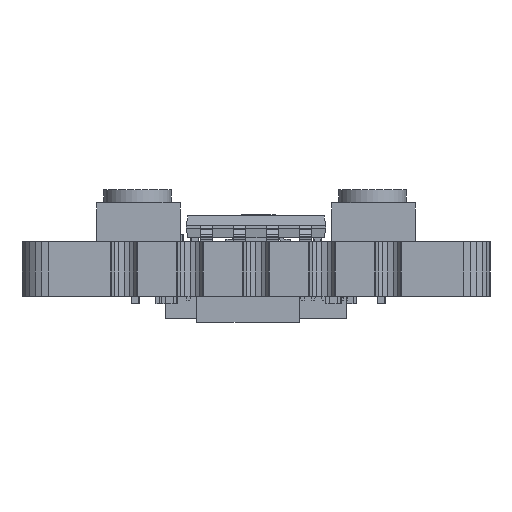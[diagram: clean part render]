
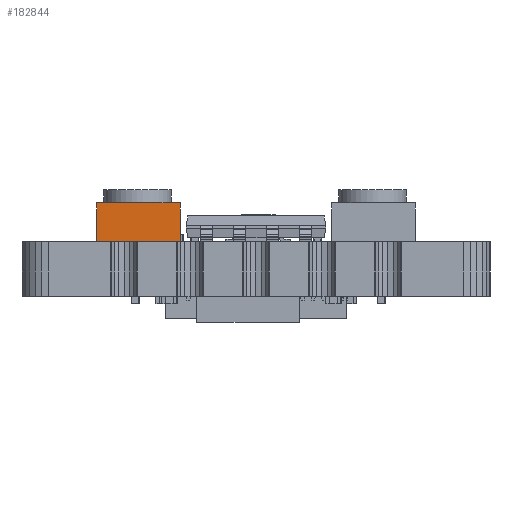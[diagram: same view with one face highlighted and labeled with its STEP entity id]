
A CAD part, front view. The second image highlights one B-rep face of the part: STEP entity #182844.
In plain terms, the highlighted planar face has unit normal (0, -1, 0).
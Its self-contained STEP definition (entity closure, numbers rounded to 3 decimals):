
#182844 = ADVANCED_FACE('',(#182845),#182859,.F.);
#182845 = FACE_BOUND('',#182846,.F.);
#182846 = EDGE_LOOP('',(#182847,#182882,#182910,#182938));
#182847 = ORIENTED_EDGE('',*,*,#182848,.T.);
#182848 = EDGE_CURVE('',#182849,#182851,#182853,.T.);
#182849 = VERTEX_POINT('',#182850);
#182850 = CARTESIAN_POINT('',(-1.6,-2.159,0.));
#182851 = VERTEX_POINT('',#182852);
#182852 = CARTESIAN_POINT('',(-1.6,-2.159,1.5));
#182853 = SURFACE_CURVE('',#182854,(#182858,#182870),.PCURVE_S1.);
#182854 = LINE('',#182855,#182856);
#182855 = CARTESIAN_POINT('',(-1.6,-2.159,0.));
#182856 = VECTOR('',#182857,1.);
#182857 = DIRECTION('',(0.,0.,1.));
#182858 = PCURVE('',#182859,#182864);
#182859 = PLANE('',#182860);
#182860 = AXIS2_PLACEMENT_3D('',#182861,#182862,#182863);
#182861 = CARTESIAN_POINT('',(-1.6,-2.159,0.));
#182862 = DIRECTION('',(0.,1.,0.));
#182863 = DIRECTION('',(1.,0.,0.));
#182864 = DEFINITIONAL_REPRESENTATION('',(#182865),#182869);
#182865 = LINE('',#182866,#182867);
#182866 = CARTESIAN_POINT('',(0.,0.));
#182867 = VECTOR('',#182868,1.);
#182868 = DIRECTION('',(0.,-1.));
#182869 = ( GEOMETRIC_REPRESENTATION_CONTEXT(2) 
PARAMETRIC_REPRESENTATION_CONTEXT() REPRESENTATION_CONTEXT('2D SPACE',''
  ) );
#182870 = PCURVE('',#182871,#182876);
#182871 = PLANE('',#182872);
#182872 = AXIS2_PLACEMENT_3D('',#182873,#182874,#182875);
#182873 = CARTESIAN_POINT('',(-1.6,2.159,0.));
#182874 = DIRECTION('',(1.,0.,0.));
#182875 = DIRECTION('',(0.,-1.,0.));
#182876 = DEFINITIONAL_REPRESENTATION('',(#182877),#182881);
#182877 = LINE('',#182878,#182879);
#182878 = CARTESIAN_POINT('',(4.318,0.));
#182879 = VECTOR('',#182880,1.);
#182880 = DIRECTION('',(0.,-1.));
#182881 = ( GEOMETRIC_REPRESENTATION_CONTEXT(2) 
PARAMETRIC_REPRESENTATION_CONTEXT() REPRESENTATION_CONTEXT('2D SPACE',''
  ) );
#182882 = ORIENTED_EDGE('',*,*,#182883,.T.);
#182883 = EDGE_CURVE('',#182851,#182884,#182886,.T.);
#182884 = VERTEX_POINT('',#182885);
#182885 = CARTESIAN_POINT('',(1.6,-2.159,1.5));
#182886 = SURFACE_CURVE('',#182887,(#182891,#182898),.PCURVE_S1.);
#182887 = LINE('',#182888,#182889);
#182888 = CARTESIAN_POINT('',(-1.6,-2.159,1.5));
#182889 = VECTOR('',#182890,1.);
#182890 = DIRECTION('',(1.,0.,0.));
#182891 = PCURVE('',#182859,#182892);
#182892 = DEFINITIONAL_REPRESENTATION('',(#182893),#182897);
#182893 = LINE('',#182894,#182895);
#182894 = CARTESIAN_POINT('',(0.,-1.5));
#182895 = VECTOR('',#182896,1.);
#182896 = DIRECTION('',(1.,0.));
#182897 = ( GEOMETRIC_REPRESENTATION_CONTEXT(2) 
PARAMETRIC_REPRESENTATION_CONTEXT() REPRESENTATION_CONTEXT('2D SPACE',''
  ) );
#182898 = PCURVE('',#182899,#182904);
#182899 = PLANE('',#182900);
#182900 = AXIS2_PLACEMENT_3D('',#182901,#182902,#182903);
#182901 = CARTESIAN_POINT('',(-1.6,-2.159,1.5));
#182902 = DIRECTION('',(0.,0.,-1.));
#182903 = DIRECTION('',(-1.,0.,0.));
#182904 = DEFINITIONAL_REPRESENTATION('',(#182905),#182909);
#182905 = LINE('',#182906,#182907);
#182906 = CARTESIAN_POINT('',(0.,0.));
#182907 = VECTOR('',#182908,1.);
#182908 = DIRECTION('',(-1.,0.));
#182909 = ( GEOMETRIC_REPRESENTATION_CONTEXT(2) 
PARAMETRIC_REPRESENTATION_CONTEXT() REPRESENTATION_CONTEXT('2D SPACE',''
  ) );
#182910 = ORIENTED_EDGE('',*,*,#182911,.F.);
#182911 = EDGE_CURVE('',#182912,#182884,#182914,.T.);
#182912 = VERTEX_POINT('',#182913);
#182913 = CARTESIAN_POINT('',(1.6,-2.159,0.));
#182914 = SURFACE_CURVE('',#182915,(#182919,#182926),.PCURVE_S1.);
#182915 = LINE('',#182916,#182917);
#182916 = CARTESIAN_POINT('',(1.6,-2.159,0.));
#182917 = VECTOR('',#182918,1.);
#182918 = DIRECTION('',(0.,0.,1.));
#182919 = PCURVE('',#182859,#182920);
#182920 = DEFINITIONAL_REPRESENTATION('',(#182921),#182925);
#182921 = LINE('',#182922,#182923);
#182922 = CARTESIAN_POINT('',(3.2,0.));
#182923 = VECTOR('',#182924,1.);
#182924 = DIRECTION('',(0.,-1.));
#182925 = ( GEOMETRIC_REPRESENTATION_CONTEXT(2) 
PARAMETRIC_REPRESENTATION_CONTEXT() REPRESENTATION_CONTEXT('2D SPACE',''
  ) );
#182926 = PCURVE('',#182927,#182932);
#182927 = PLANE('',#182928);
#182928 = AXIS2_PLACEMENT_3D('',#182929,#182930,#182931);
#182929 = CARTESIAN_POINT('',(1.6,-2.159,0.));
#182930 = DIRECTION('',(-1.,0.,0.));
#182931 = DIRECTION('',(0.,1.,0.));
#182932 = DEFINITIONAL_REPRESENTATION('',(#182933),#182937);
#182933 = LINE('',#182934,#182935);
#182934 = CARTESIAN_POINT('',(0.,0.));
#182935 = VECTOR('',#182936,1.);
#182936 = DIRECTION('',(0.,-1.));
#182937 = ( GEOMETRIC_REPRESENTATION_CONTEXT(2) 
PARAMETRIC_REPRESENTATION_CONTEXT() REPRESENTATION_CONTEXT('2D SPACE',''
  ) );
#182938 = ORIENTED_EDGE('',*,*,#182939,.F.);
#182939 = EDGE_CURVE('',#182849,#182912,#182940,.T.);
#182940 = SURFACE_CURVE('',#182941,(#182945,#182952),.PCURVE_S1.);
#182941 = LINE('',#182942,#182943);
#182942 = CARTESIAN_POINT('',(-1.6,-2.159,0.));
#182943 = VECTOR('',#182944,1.);
#182944 = DIRECTION('',(1.,0.,0.));
#182945 = PCURVE('',#182859,#182946);
#182946 = DEFINITIONAL_REPRESENTATION('',(#182947),#182951);
#182947 = LINE('',#182948,#182949);
#182948 = CARTESIAN_POINT('',(0.,0.));
#182949 = VECTOR('',#182950,1.);
#182950 = DIRECTION('',(1.,0.));
#182951 = ( GEOMETRIC_REPRESENTATION_CONTEXT(2) 
PARAMETRIC_REPRESENTATION_CONTEXT() REPRESENTATION_CONTEXT('2D SPACE',''
  ) );
#182952 = PCURVE('',#182953,#182958);
#182953 = PLANE('',#182954);
#182954 = AXIS2_PLACEMENT_3D('',#182955,#182956,#182957);
#182955 = CARTESIAN_POINT('',(-1.6,-2.159,0.));
#182956 = DIRECTION('',(0.,0.,-1.));
#182957 = DIRECTION('',(-1.,0.,0.));
#182958 = DEFINITIONAL_REPRESENTATION('',(#182959),#182963);
#182959 = LINE('',#182960,#182961);
#182960 = CARTESIAN_POINT('',(0.,0.));
#182961 = VECTOR('',#182962,1.);
#182962 = DIRECTION('',(-1.,0.));
#182963 = ( GEOMETRIC_REPRESENTATION_CONTEXT(2) 
PARAMETRIC_REPRESENTATION_CONTEXT() REPRESENTATION_CONTEXT('2D SPACE',''
  ) );
